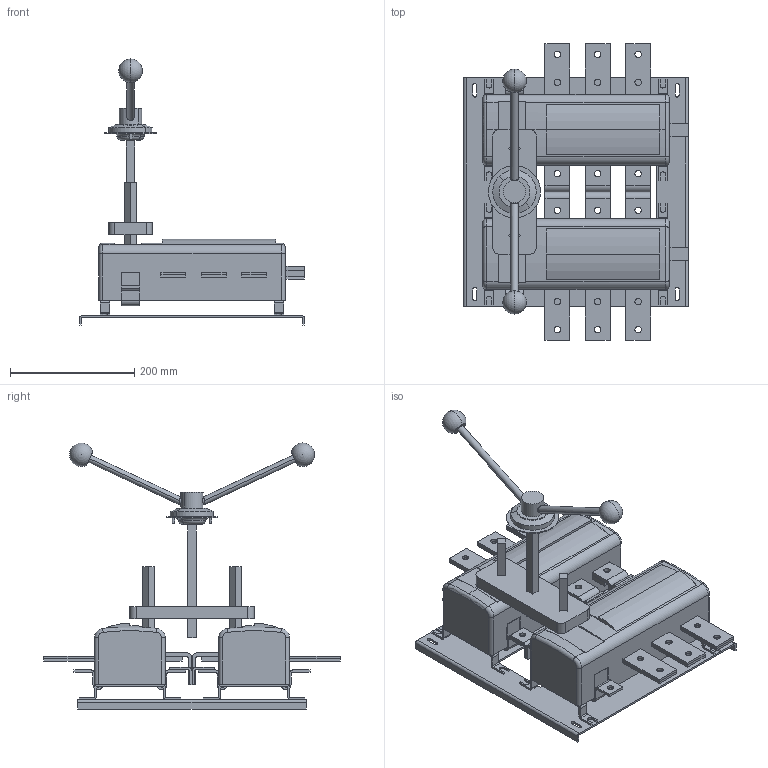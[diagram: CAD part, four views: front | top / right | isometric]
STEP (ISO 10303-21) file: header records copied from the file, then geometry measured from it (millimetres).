
FILE_DESCRIPTION (( 'STEP AP214' ), '1' );
FILE_NAME ('Âûêëþ÷àòåëü íàãðóçêè ÂÍÊ-39-71130N-630À-Ë-IP32-ÓÕË3-ÊÝÀÇ.STEP', '2023-04-19T12:05:43', ( '' ), ( '' ), 'SwSTEP 2.0', 'SolidWorks 2018', '' );
FILE_SCHEMA (( 'AUTOMOTIVE_DESIGN' ));
Length unit declared in the file: millimetre
Products named in the file (1): Âûêëþ÷àòåëü íàãðóçêè ÂÍÊ-39-71130N-630À-Ë-IP32-ÓÕË3-ÊÝÀÇ
Bounding box: 362 x 478 x 428.3 mm (x, y, z)
Volume: 7499215.2 mm3; surface area: 827792 mm2
Topology: 24 solids, 24 shells, 676 faces, 1775 edges, 1172 vertices
Faces by surface type: plane 420, cylinder 234, torus 16, sphere 4, cone 2
Entity records: 28830 total; most frequent: CARTESIAN_POINT 3796, DIRECTION 3627, ORIENTED_EDGE 3530, EDGE_CURVE 1765, VECTOR 1241, LINE 1241, AXIS2_PLACEMENT_3D 1193, VERTEX_POINT 1166
